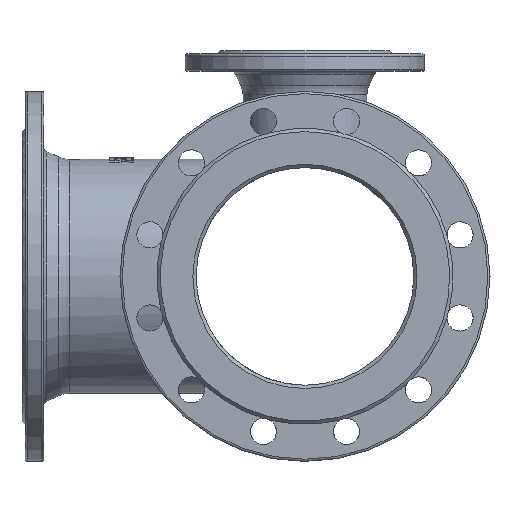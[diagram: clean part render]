
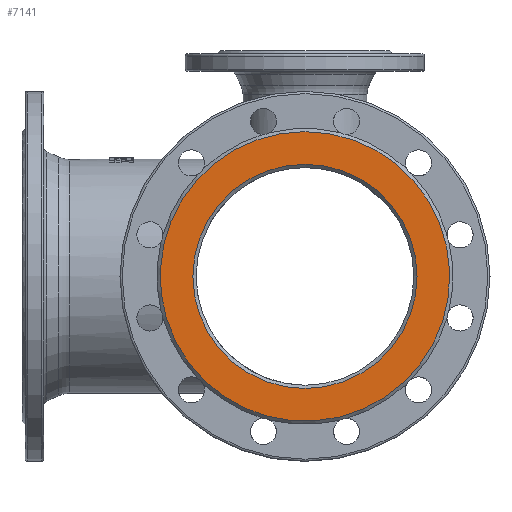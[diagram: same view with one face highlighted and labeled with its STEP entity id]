
A CAD part, left-side view. The second image highlights one B-rep face of the part: STEP entity #7141.
In plain terms, the highlighted planar face has unit normal (-1, 0, 0).
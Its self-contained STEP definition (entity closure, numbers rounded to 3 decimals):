
#2040 = CARTESIAN_POINT ( 'NONE',  ( -260., 0., -103. ) ) ;
#2051 = CARTESIAN_POINT ( 'NONE',  ( -260., 0., 133. ) ) ;
#2462 = EDGE_CURVE ( 'NONE', #3304, #3304, #6074, .T. ) ;
#3084 = CARTESIAN_POINT ( 'NONE',  ( -260., 100., 0. ) ) ;
#3087 = PLANE ( 'NONE',  #3792 ) ;
#3090 = DIRECTION ( 'NONE',  ( 1., 0., 0. ) ) ;
#3092 = DIRECTION ( 'NONE',  ( 0., 0., -1. ) ) ;
#3304 = VERTEX_POINT ( 'NONE', #2040 ) ;
#3325 = VERTEX_POINT ( 'NONE', #2051 ) ;
#3472 = EDGE_CURVE ( 'NONE', #3325, #3325, #6119, .T. ) ;
#3699 = AXIS2_PLACEMENT_3D ( 'NONE', #3822, #3823, #3824 ) ;
#3738 = AXIS2_PLACEMENT_3D ( 'NONE', #4161, #4162, #4163 ) ;
#3792 = AXIS2_PLACEMENT_3D ( 'NONE', #3084, #3090, #3092 ) ;
#3822 = CARTESIAN_POINT ( 'NONE',  ( -260., 0., 0. ) ) ;
#3823 = DIRECTION ( 'NONE',  ( 1., 0., 0. ) ) ;
#3824 = DIRECTION ( 'NONE',  ( 0., 0., -1. ) ) ;
#4161 = CARTESIAN_POINT ( 'NONE',  ( -260., 0., 0. ) ) ;
#4162 = DIRECTION ( 'NONE',  ( -1., 0., 0. ) ) ;
#4163 = DIRECTION ( 'NONE',  ( 0., 0., 1. ) ) ;
#4358 = ORIENTED_EDGE ( 'NONE', *, *, #3472, .T. ) ;
#4388 = ORIENTED_EDGE ( 'NONE', *, *, #2462, .T. ) ;
#5785 = EDGE_LOOP ( 'NONE', ( #4388 ) ) ;
#6074 = CIRCLE ( 'NONE', #3699, 103. ) ;
#6119 = CIRCLE ( 'NONE', #3738, 133. ) ;
#6212 = FACE_BOUND ( 'NONE', #5785, .T. ) ;
#6218 = FACE_OUTER_BOUND ( 'NONE', #6908, .T. ) ;
#6908 = EDGE_LOOP ( 'NONE', ( #4358 ) ) ;
#7141 = ADVANCED_FACE ( 'NONE', ( #6212, #6218 ), #3087, .F. ) ;
